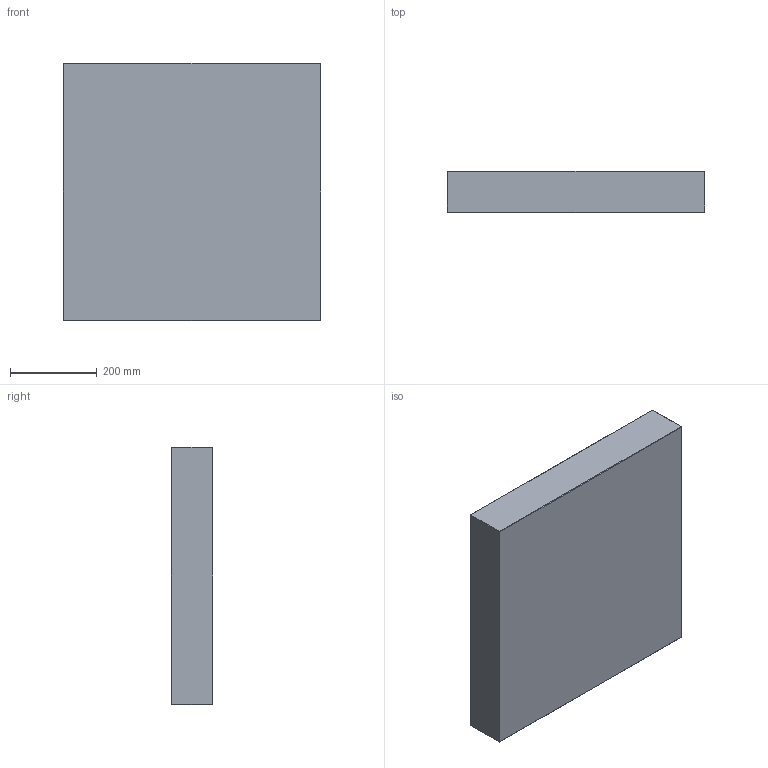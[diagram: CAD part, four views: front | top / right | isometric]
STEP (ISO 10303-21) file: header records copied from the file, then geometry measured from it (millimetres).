
FILE_DESCRIPTION (( 'STEP AP214' ), '1' );
FILE_NAME ('PC-P-596x596x96.STEP', '2020-04-01T14:49:08', ( 'August' ), ( '' ), 'SwSTEP 2.0', 'SolidWorks 2018', '' );
FILE_SCHEMA (( 'AUTOMOTIVE_DESIGN' ));
Length unit declared in the file: millimetre
Products named in the file (1): PC-P-596x596x96
Bounding box: 596 x 96 x 596 mm (x, y, z)
Volume: 34098165.3 mm3; surface area: 936275 mm2
Topology: 1 solids, 1 shells, 26 faces, 48 edges, 24 vertices
Faces by surface type: plane 26
Entity records: 634 total; most frequent: DIRECTION 102, CARTESIAN_POINT 99, ORIENTED_EDGE 96, VECTOR 48, LINE 48, EDGE_CURVE 48, AXIS2_PLACEMENT_3D 27, EDGE_LOOP 26
